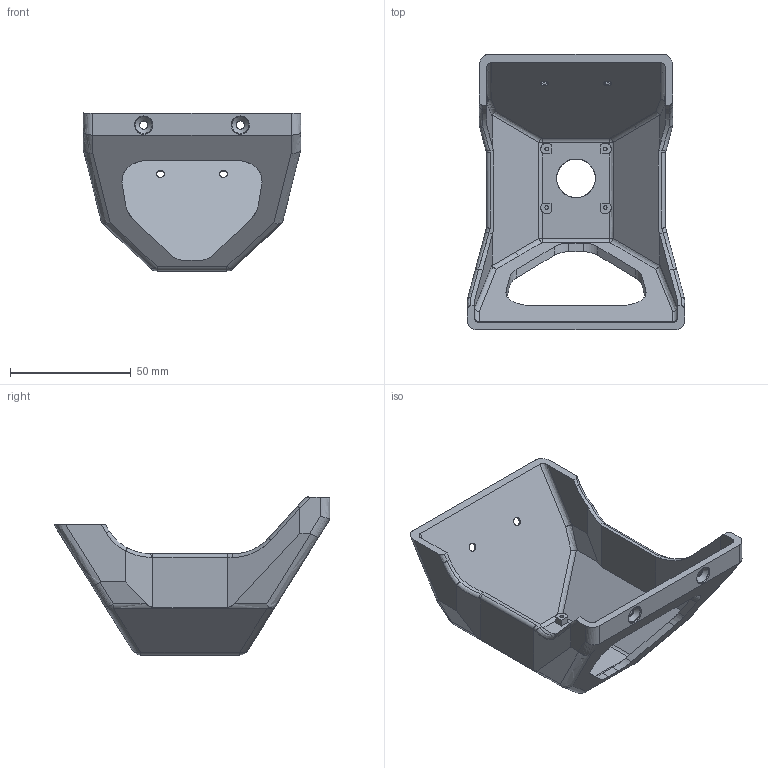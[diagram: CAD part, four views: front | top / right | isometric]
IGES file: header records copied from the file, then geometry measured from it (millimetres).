
Global section: file name: C:\Users\gehrichcr\Documents\1 Drive Backup\Practice\Inspire\V1.5\IGES\Canopy Nose FPV V1.5.igs; native system: NX V8.5; preprocessor: SIEMENS PLM Software NX 8.5; date: 20150608.115453; units: millimetre
Bounding box: 90 x 114.13 x 65.39 mm (x, y, z)
Surface area: 34354.9 mm2 (no closed solid volume)
Topology: 0 solids, 0 shells, 174 faces, 1131 edges, 1118 vertices
Faces by surface type: bspline 174
